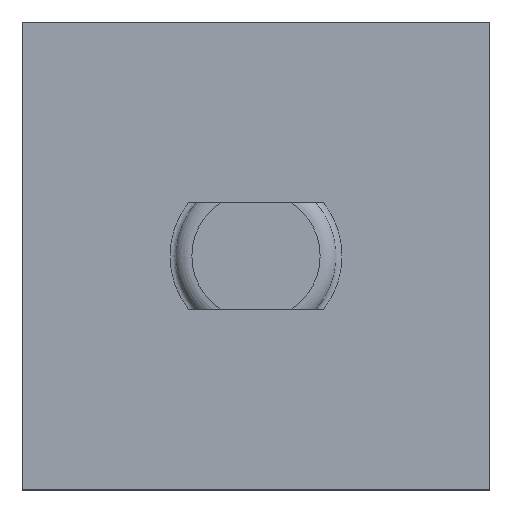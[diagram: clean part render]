
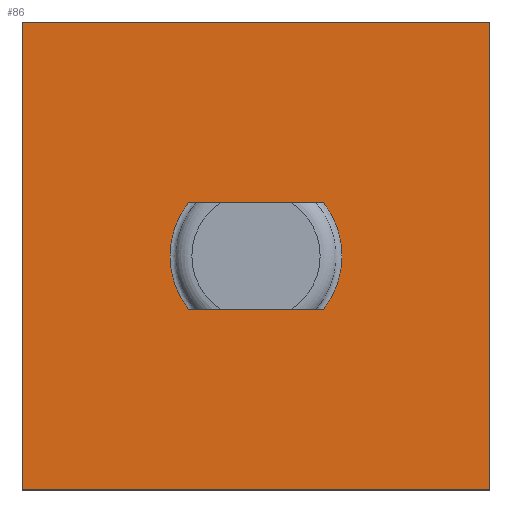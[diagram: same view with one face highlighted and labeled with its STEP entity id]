
A CAD part, top view. The second image highlights one B-rep face of the part: STEP entity #86.
In plain terms, the highlighted planar face has unit normal (0, 0, 1).
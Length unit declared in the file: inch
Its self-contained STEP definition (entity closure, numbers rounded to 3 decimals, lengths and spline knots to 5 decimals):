
#86=ADVANCED_FACE('',(#119,#120),#121,.F.);
#119=FACE_OUTER_BOUND('',#161,.T.);
#120=FACE_BOUND('',#162,.T.);
#121=PLANE('',#163);
#161=EDGE_LOOP('',(#269,#270,#271,#272));
#162=EDGE_LOOP('',(#273,#274,#275,#276));
#163=AXIS2_PLACEMENT_3D('',#277,#278,#279);
#269=ORIENTED_EDGE('',*,*,#372,.T.);
#270=ORIENTED_EDGE('',*,*,#365,.T.);
#271=ORIENTED_EDGE('',*,*,#376,.F.);
#272=ORIENTED_EDGE('',*,*,#350,.F.);
#273=ORIENTED_EDGE('',*,*,#377,.T.);
#274=ORIENTED_EDGE('',*,*,#352,.F.);
#275=ORIENTED_EDGE('',*,*,#378,.T.);
#276=ORIENTED_EDGE('',*,*,#366,.F.);
#277=CARTESIAN_POINT('',(-7.2,0.081,-1.402));
#278=DIRECTION('',(0.0,0.0,-1.0));
#279=DIRECTION('',(1.0,0.,0.0));
#350=EDGE_CURVE('',#409,#411,#412,.T.);
#352=EDGE_CURVE('',#414,#415,#416,.T.);
#365=EDGE_CURVE('',#435,#437,#439,.T.);
#366=EDGE_CURVE('',#440,#441,#442,.T.);
#372=EDGE_CURVE('',#409,#435,#452,.T.);
#376=EDGE_CURVE('',#411,#437,#456,.T.);
#377=EDGE_CURVE('',#440,#415,#457,.T.);
#378=EDGE_CURVE('',#414,#441,#458,.T.);
#409=VERTEX_POINT('',#524);
#411=VERTEX_POINT('',#527);
#412=LINE('',#528,#529);
#414=VERTEX_POINT('',#532);
#415=VERTEX_POINT('',#533);
#416=LINE('',#534,#535);
#435=VERTEX_POINT('',#598);
#437=VERTEX_POINT('',#601);
#439=LINE('',#604,#605);
#440=VERTEX_POINT('',#606);
#441=VERTEX_POINT('',#607);
#442=LINE('',#608,#609);
#452=LINE('',#634,#635);
#456=LINE('',#639,#640);
#457=CIRCLE('',#641,0.3675);
#458=CIRCLE('',#642,0.3675);
#524=CARTESIAN_POINT('',(-2.7,-1.407,-1.402));
#527=CARTESIAN_POINT('',(-4.7,-1.407,-1.402));
#528=CARTESIAN_POINT('',(-3.7,-1.407,-1.402));
#529=VECTOR('',#662,1.0);
#532=CARTESIAN_POINT('',(-3.98822,-0.635,-1.402));
#533=CARTESIAN_POINT('',(-3.41178,-0.635,-1.402));
#534=CARTESIAN_POINT('',(-361.6178,-0.635,-1.402));
#535=VECTOR('',#664,1.0);
#598=CARTESIAN_POINT('',(-2.7,0.593,-1.402));
#601=CARTESIAN_POINT('',(-4.7,0.593,-1.402));
#604=CARTESIAN_POINT('',(-3.7,0.593,-1.402));
#605=VECTOR('',#675,1.0);
#606=CARTESIAN_POINT('',(-3.41178,-0.179,-1.402));
#607=CARTESIAN_POINT('',(-3.98822,-0.179,-1.402));
#608=CARTESIAN_POINT('',(-434.96491,-0.179,-1.402));
#609=VECTOR('',#676,1.0);
#634=CARTESIAN_POINT('',(-2.7,25119.52023,-1.402));
#635=VECTOR('',#684,1.0);
#639=CARTESIAN_POINT('',(-4.7,-1.135,-1.402));
#640=VECTOR('',#694,1.0);
#641=AXIS2_PLACEMENT_3D('',#695,#696,#697);
#642=AXIS2_PLACEMENT_3D('',#698,#699,#700);
#662=DIRECTION('',(-1.0,0.0,0.0));
#664=DIRECTION('',(1.0,0.0,0.0));
#675=DIRECTION('',(-1.0,0.0,0.0));
#676=DIRECTION('',(-1.0,0.0,0.0));
#684=DIRECTION('',(-0.0,1.0,0.0));
#694=DIRECTION('',(0.0,1.0,0.0));
#695=CARTESIAN_POINT('',(-3.7,-0.407,-1.402));
#696=DIRECTION('',(0.0,0.0,-1.0));
#697=DIRECTION('',(-1.0,0.0,0.0));
#698=CARTESIAN_POINT('',(-3.7,-0.407,-1.402));
#699=DIRECTION('',(0.0,0.0,-1.0));
#700=DIRECTION('',(-1.0,0.0,0.0));
